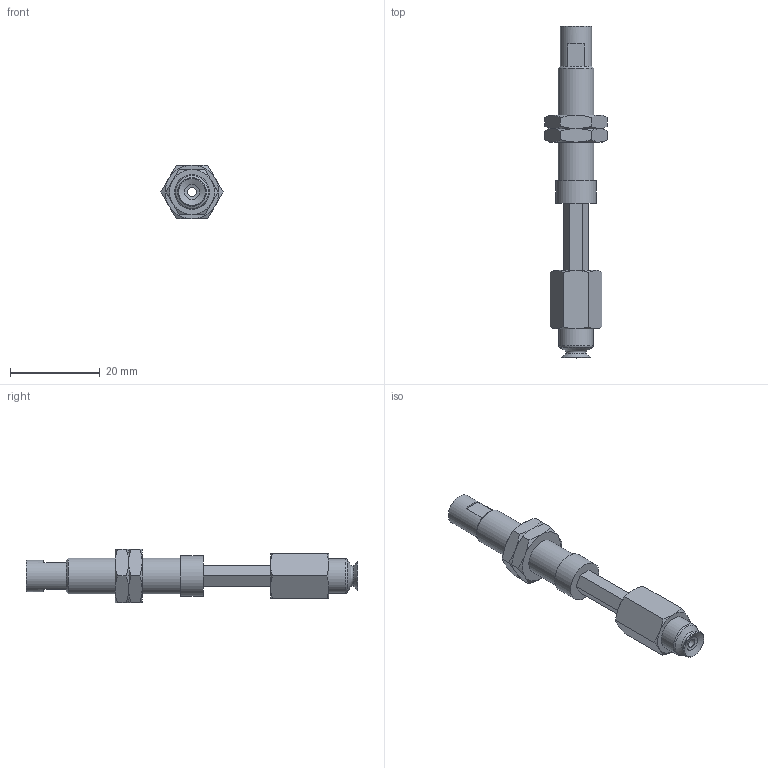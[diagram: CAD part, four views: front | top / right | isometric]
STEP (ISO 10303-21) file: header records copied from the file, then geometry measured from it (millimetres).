
FILE_DESCRIPTION(('STEP AP203'),'1');
FILE_NAME('.stp','2025-08-27T02:57:48',(' '),(' '),'Spatial InterOp 3D',' ',' ');
FILE_SCHEMA(('CONFIG_CONTROL_DESIGN'));
Length unit declared in the file: millimetre
Products named in the file (6): BNABPFTH-6A-15-※; ADAPTER; NAPATH-10A-15--M; Nut-6A-15-h; NAPFTH-6A-15-FBODY; BPFG-6A-※
Assembly tree (6 placements, depth 2):
  BNABPFTH-6A-15-※
    ADAPTER
    NAPATH-10A-15--M
    Nut-6A-15-h  x2
    NAPFTH-6A-15-FBODY
    BPFG-6A-※
Bounding box: 13.86 x 74 x 12 mm (x, y, z)
Volume: 3800.4 mm3; surface area: 4562.5 mm2
Topology: 6 solids, 6 shells, 122 faces, 264 edges, 160 vertices
Faces by surface type: plane 52, cone 46, cylinder 14, torus 9, bspline 1
Full cylindrical faces by diameter (mm): 2 x3, 4 x2, 4.134 x1, 6 x2, 7 x1, 7.188 x2, 7.7 x1, 8 x1, 9 x1
Entity records: 2983 total; most frequent: CARTESIAN_POINT 721, DIRECTION 408, ORIENTED_EDGE 352, EDGE_CURVE 176, AXIS2_PLACEMENT_3D 175, EDGE_LOOP 146, VERTEX_POINT 124, FACE_OUTER_BOUND 122
